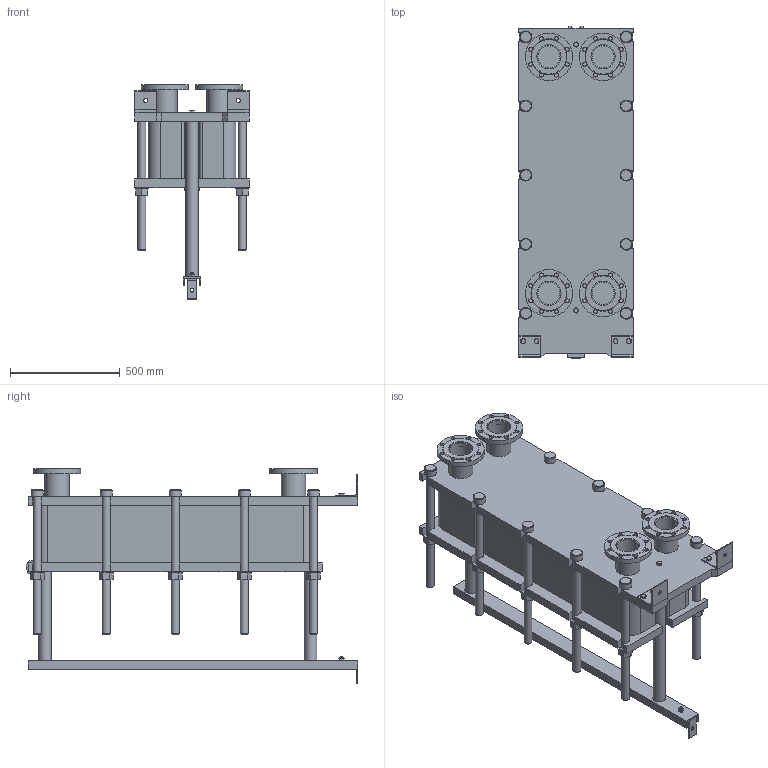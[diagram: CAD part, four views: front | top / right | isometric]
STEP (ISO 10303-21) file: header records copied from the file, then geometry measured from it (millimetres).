
FILE_DESCRIPTION(/* description */ (''),/* implementation_level */ '2;1');
FILE_NAME(/* name */ 'C:\Users\zhuro\Desktop\ENCO\TO\ЭН-04\ЭН-0,5-04-76-1.stp',/* time_stamp */ '2022-06-06T10:51:19+03:00',/* author */ ('zhuro'),/* organization */ (''),/* preprocessor_version */ 'ST-DEVELOPER v18.1',/* originating_system */ 'Autodesk Inventor 2022',/* authorisation */ '');
FILE_SCHEMA (('AUTOMOTIVE_DESIGN { 1 0 10303 214 3 1 1 }'));
Length unit declared in the file: millimetre
Products named in the file (1): ЭН-0,5-04-76-1
Bounding box: 520 x 1510 x 983 mm (x, y, z)
Volume: 200949931.6 mm3; surface area: 7827499.7 mm2
Topology: 45 solids, 45 shells, 668 faces, 1611 edges, 1048 vertices
Faces by surface type: plane 457, cylinder 166, cone 39, torus 6
Full cylindrical faces by diameter (mm): 8 x4, 10 x2, 16 x8, 18 x35, 36 x25, 40 x2, 42 x1, 45 x4, 54 x10, 57 x2, 60 x10, 68 x2, 100 x4, 110 x8, 215 x4
Entity records: 23607 total; most frequent: CARTESIAN_POINT 7348, DIRECTION 3371, ORIENTED_EDGE 3142, EDGE_CURVE 1571, AXIS2_PLACEMENT_3D 1199, VERTEX_POINT 1044, LINE 973, VECTOR 973
